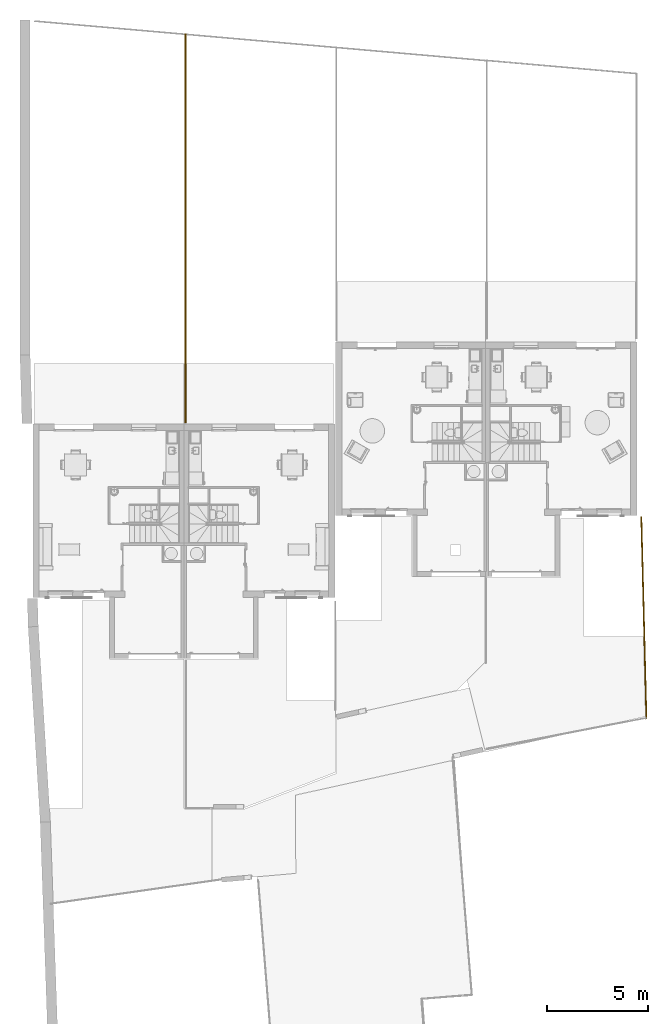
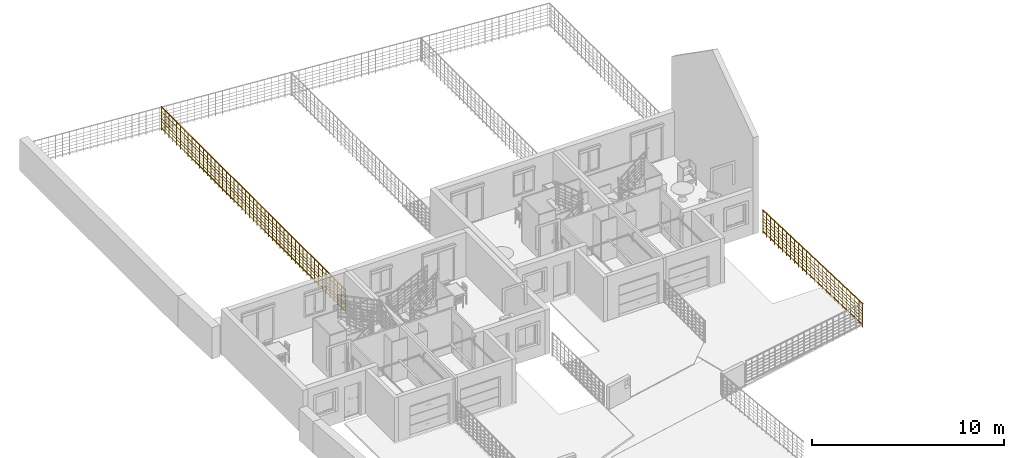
# One storey, part 26 of 30: 2 railings.
"""IFC2X3 building model written with IfcOpenShell, lengths in metres."""

from ifc_helpers import new_model, entity, si_unit, converted_unit, derived_unit, direction, frame, frame_2d, origin, origin_2d_with_axis, place, context, subcontext, project, spatial, polyline, rectangle, circle, outline, extrude, material, material_list, element, save


model = new_model("IFC2X3")

# Units and contexts
model_context = context("Model", 3, precision=1e-05, world=origin(), true_north=direction((6.12303176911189e-17, 1.0)))
body_context = subcontext(model_context, "Body", "Model", "MODEL_VIEW")
ifc_project = project(units=[si_unit("LENGTHUNIT", "METRE"), si_unit("AREAUNIT", "SQUARE_METRE"), si_unit("VOLUMEUNIT", "CUBIC_METRE"), converted_unit("PLANEANGLEUNIT", "DEGREE", entity("IfcRatioMeasure", 0.0174532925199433), si_unit("PLANEANGLEUNIT", "RADIAN"), dimensions=[0, 0, 0, 0, 0, 0, 0]), si_unit("MASSUNIT", "GRAM", prefix="KILO"), derived_unit("MASSDENSITYUNIT", [(si_unit("MASSUNIT", "GRAM", prefix="KILO"), 1), (si_unit("LENGTHUNIT", "METRE"), -3)]), si_unit("TIMEUNIT", "SECOND"), si_unit("FREQUENCYUNIT", "HERTZ"), si_unit("THERMODYNAMICTEMPERATUREUNIT", "DEGREE_CELSIUS"), derived_unit("THERMALTRANSMITTANCEUNIT", [(si_unit("MASSUNIT", "GRAM", prefix="KILO"), 1), (si_unit("THERMODYNAMICTEMPERATUREUNIT", "KELVIN"), -1), (si_unit("TIMEUNIT", "SECOND"), -3)]), derived_unit("VOLUMETRICFLOWRATEUNIT", [(si_unit("LENGTHUNIT", "METRE"), 3), (si_unit("TIMEUNIT", "SECOND"), -1)]), si_unit("ELECTRICCURRENTUNIT", "AMPERE"), si_unit("ELECTRICVOLTAGEUNIT", "VOLT"), si_unit("POWERUNIT", "WATT"), si_unit("FORCEUNIT", "NEWTON", prefix="KILO"), si_unit("ILLUMINANCEUNIT", "LUX"), si_unit("LUMINOUSFLUXUNIT", "LUMEN"), si_unit("LUMINOUSINTENSITYUNIT", "CANDELA"), derived_unit("USERDEFINED", [(si_unit("MASSUNIT", "GRAM", prefix="KILO"), -1), (si_unit("LENGTHUNIT", "METRE"), -2), (si_unit("TIMEUNIT", "SECOND"), 3), (si_unit("LUMINOUSFLUXUNIT", "LUMEN"), 1)]), derived_unit("LINEARVELOCITYUNIT", [(si_unit("LENGTHUNIT", "METRE"), 1), (si_unit("TIMEUNIT", "SECOND"), -1)]), si_unit("PRESSUREUNIT", "PASCAL"), derived_unit("USERDEFINED", [(si_unit("LENGTHUNIT", "METRE"), -2), (si_unit("MASSUNIT", "GRAM", prefix="KILO"), 1), (si_unit("TIMEUNIT", "SECOND"), -2)])], contexts=[model_context])

# Site, building, storey
site_placement = place(None, origin())
site = spatial("IfcSite", under=ifc_project, at=site_placement, Name="Surface", CompositionType="ELEMENT")
building_placement = place(site_placement, origin())
building = spatial("IfcBuilding", under=site, at=building_placement, CompositionType="ELEMENT")
storey_placement = place(building_placement, origin())
storey = spatial("IfcBuildingStorey", under=building, at=storey_placement, Name="Plan des fondations  Maisons 1 et 2", CompositionType="ELEMENT", Elevation=0.0)

# Railings
ifc_material_1 = material(Name="Bois")
ifc_material_2 = material(Name="Finition Peinture Grise")
ifc_material_list_1 = material_list([ifc_material_1, ifc_material_2])
railing_1_placement = place(building_placement, origin())
element("IfcRailing", 1, at=railing_1_placement, inside=storey, material=ifc_material_list_1, Name="Garde-corps:Type Bateau 1,50 m", ObjectType="Garde-corps:Type Bateau 1,50 m", PredefinedType="NOTDEFINED", context=body_context, shape_type="SweptSolid", body=[
    extrude(rectangle(XDim=0.0499999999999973, YDim=0.0139999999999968, at=frame_2d((4.32986979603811e-15, -1.73259843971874e-14), x_axis=(1.0, 0.0))), frame((68.9122847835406, 107.277798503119, -0.1), z_axis=(0.0, 0.0, 1.0), x_axis=(-1.0, 0.0, 0.0)), (0.0, 0.0, 1.0), 1.46984653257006),
    extrude(rectangle(XDim=0.0499999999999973, YDim=0.0139999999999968, at=frame_2d((4.32986979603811e-15, 0.0), x_axis=(1.0, 0.0))), frame((68.9122847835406, 106.877798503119, -0.1), z_axis=(0.0, 0.0, 1.0), x_axis=(-1.0, 0.0, 0.0)), (0.0, 0.0, 1.0), 1.46984653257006),
    extrude(rectangle(XDim=0.0499999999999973, YDim=0.0139999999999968, at=frame_2d((4.32986979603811e-15, 0.0), x_axis=(1.0, 0.0))), frame((68.9122847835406, 106.477798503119, -0.1), z_axis=(0.0, 0.0, 1.0), x_axis=(-1.0, 0.0, 0.0)), (0.0, 0.0, 1.0), 1.46984653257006),
    extrude(rectangle(XDim=0.0499999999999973, YDim=0.0139999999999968, at=frame_2d((4.32986979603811e-15, -1.73259843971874e-14), x_axis=(1.0, 0.0))), frame((68.9122847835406, 106.077798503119, -0.1), z_axis=(0.0, 0.0, 1.0), x_axis=(-1.0, 0.0, 0.0)), (0.0, 0.0, 1.0), 1.46984653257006),
    extrude(rectangle(XDim=0.0499999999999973, YDim=0.0139999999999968, at=frame_2d((4.32986979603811e-15, 0.0), x_axis=(1.0, 0.0))), frame((68.9122847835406, 105.677798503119, -0.1), z_axis=(0.0, 0.0, 1.0), x_axis=(-1.0, 0.0, 0.0)), (0.0, 0.0, 1.0), 1.46984653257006),
    extrude(rectangle(XDim=0.0499999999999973, YDim=0.0139999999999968, at=frame_2d((4.32986979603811e-15, 0.0), x_axis=(1.0, 0.0))), frame((68.9122847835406, 105.277798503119, -0.1), z_axis=(0.0, 0.0, 1.0), x_axis=(-1.0, 0.0, 0.0)), (0.0, 0.0, 1.0), 1.46984653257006),
    extrude(rectangle(XDim=0.0499999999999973, YDim=0.0139999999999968, at=frame_2d((-4.32986979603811e-15, -1.73259843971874e-14), x_axis=(1.0, 0.0))), frame((68.9122847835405, 104.877798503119, -0.1), z_axis=(0.0, 0.0, 1.0), x_axis=(-1.0, 0.0, 0.0)), (0.0, 0.0, 1.0), 1.46984653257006),
    extrude(rectangle(XDim=0.0499999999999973, YDim=0.0139999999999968, at=frame_2d((-4.32986979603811e-15, 0.0), x_axis=(1.0, 0.0))), frame((68.9122847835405, 104.477798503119, -0.1), z_axis=(0.0, 0.0, 1.0), x_axis=(-1.0, 0.0, 0.0)), (0.0, 0.0, 1.0), 1.46984653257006),
    extrude(rectangle(XDim=0.0499999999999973, YDim=0.0139999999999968, at=frame_2d((-4.32986979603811e-15, 0.0), x_axis=(1.0, 0.0))), frame((68.9122847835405, 104.077798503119, -0.1), z_axis=(0.0, 0.0, 1.0), x_axis=(-1.0, 0.0, 0.0)), (0.0, 0.0, 1.0), 1.46984653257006),
    extrude(rectangle(XDim=0.0499999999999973, YDim=0.0139999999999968, at=frame_2d((-4.32986979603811e-15, 0.0), x_axis=(1.0, 0.0))), frame((68.9122847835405, 103.677798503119, -0.1), z_axis=(0.0, 0.0, 1.0), x_axis=(-1.0, 0.0, 0.0)), (0.0, 0.0, 1.0), 1.46984653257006),
    extrude(rectangle(XDim=0.0499999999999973, YDim=0.0139999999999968, at=frame_2d((-4.32986979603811e-15, 0.0), x_axis=(1.0, 0.0))), frame((68.9122847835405, 103.277798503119, -0.1), z_axis=(0.0, 0.0, 1.0), x_axis=(-1.0, 0.0, 0.0)), (0.0, 0.0, 1.0), 1.46984653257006),
    extrude(rectangle(XDim=0.0499999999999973, YDim=0.0139999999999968, at=frame_2d((-4.32986979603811e-15, 0.0), x_axis=(1.0, 0.0))), frame((68.9122847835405, 102.877798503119, -0.1), z_axis=(0.0, 0.0, 1.0), x_axis=(-1.0, 0.0, 0.0)), (0.0, 0.0, 1.0), 1.46984653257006),
    extrude(rectangle(XDim=0.0499999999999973, YDim=0.0139999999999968, at=frame_2d((-4.32986979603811e-15, 0.0), x_axis=(1.0, 0.0))), frame((68.9122847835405, 102.477798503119, -0.1), z_axis=(0.0, 0.0, 1.0), x_axis=(-1.0, 0.0, 0.0)), (0.0, 0.0, 1.0), 1.46984653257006),
    extrude(rectangle(XDim=0.0499999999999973, YDim=0.0139999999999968, at=frame_2d((-4.32986979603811e-15, 0.0), x_axis=(1.0, 0.0))), frame((68.9122847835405, 102.077798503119, -0.1), z_axis=(0.0, 0.0, 1.0), x_axis=(-1.0, 0.0, 0.0)), (0.0, 0.0, 1.0), 1.46984653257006),
    extrude(rectangle(XDim=0.0499999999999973, YDim=0.0139999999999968, at=frame_2d((-4.32986979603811e-15, 0.0), x_axis=(1.0, 0.0))), frame((68.9122847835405, 101.677798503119, -0.1), z_axis=(0.0, 0.0, 1.0), x_axis=(-1.0, 0.0, 0.0)), (0.0, 0.0, 1.0), 1.46984653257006),
    extrude(rectangle(XDim=0.0499999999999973, YDim=0.0139999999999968, at=frame_2d((-4.32986979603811e-15, 0.0), x_axis=(1.0, 0.0))), frame((68.9122847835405, 101.277798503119, -0.1), z_axis=(0.0, 0.0, 1.0), x_axis=(-1.0, 0.0, 0.0)), (0.0, 0.0, 1.0), 1.46984653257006),
    extrude(rectangle(XDim=0.0499999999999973, YDim=0.0139999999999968, at=frame_2d((-4.32986979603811e-15, 0.0), x_axis=(1.0, 0.0))), frame((68.9122847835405, 100.877798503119, -0.1), z_axis=(0.0, 0.0, 1.0), x_axis=(-1.0, 0.0, 0.0)), (0.0, 0.0, 1.0), 1.46984653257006),
    extrude(rectangle(XDim=0.0499999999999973, YDim=0.0139999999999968, at=frame_2d((-4.32986979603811e-15, 0.0), x_axis=(1.0, 0.0))), frame((68.9122847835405, 100.477798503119, -0.1), z_axis=(0.0, 0.0, 1.0), x_axis=(-1.0, 0.0, 0.0)), (0.0, 0.0, 1.0), 1.46984653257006),
    extrude(rectangle(XDim=0.0499999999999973, YDim=0.0139999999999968, at=frame_2d((-4.32986979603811e-15, 0.0), x_axis=(1.0, 0.0))), frame((68.9122847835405, 100.077798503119, -0.1), z_axis=(0.0, 0.0, 1.0), x_axis=(-1.0, 0.0, 0.0)), (0.0, 0.0, 1.0), 1.46984653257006),
    extrude(rectangle(XDim=0.0499999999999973, YDim=0.0139999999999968, at=frame_2d((4.32986979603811e-15, 0.0), x_axis=(1.0, 0.0))), frame((68.9122847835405, 99.6777985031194, -0.1), z_axis=(0.0, 0.0, 1.0), x_axis=(-1.0, 0.0, 0.0)), (0.0, 0.0, 1.0), 1.46984653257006),
    extrude(rectangle(XDim=0.0499999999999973, YDim=0.0139999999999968, at=frame_2d((4.32986979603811e-15, 0.0), x_axis=(1.0, 0.0))), frame((68.9122847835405, 99.2777985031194, -0.1), z_axis=(0.0, 0.0, 1.0), x_axis=(-1.0, 0.0, 0.0)), (0.0, 0.0, 1.0), 1.46984653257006),
    extrude(rectangle(XDim=0.0499999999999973, YDim=0.0139999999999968, at=frame_2d((4.32986979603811e-15, 0.0), x_axis=(1.0, 0.0))), frame((68.9122847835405, 98.8777985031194, -0.1), z_axis=(0.0, 0.0, 1.0), x_axis=(-1.0, 0.0, 0.0)), (0.0, 0.0, 1.0), 1.46984653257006),
    extrude(rectangle(XDim=0.0499999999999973, YDim=0.0139999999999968, at=frame_2d((4.32986979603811e-15, 0.0), x_axis=(1.0, 0.0))), frame((68.9122847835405, 98.4777985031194, -0.1), z_axis=(0.0, 0.0, 1.0), x_axis=(-1.0, 0.0, 0.0)), (0.0, 0.0, 1.0), 1.46984653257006),
    extrude(rectangle(XDim=0.0499999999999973, YDim=0.0139999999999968, at=frame_2d((4.32986979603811e-15, 0.0), x_axis=(1.0, 0.0))), frame((68.9122847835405, 98.0777985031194, -0.1), z_axis=(0.0, 0.0, 1.0), x_axis=(-1.0, 0.0, 0.0)), (0.0, 0.0, 1.0), 1.46984653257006),
    extrude(rectangle(XDim=0.0499999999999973, YDim=0.0139999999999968, at=frame_2d((4.32986979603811e-15, 0.0), x_axis=(1.0, 0.0))), frame((68.9122847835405, 97.6777985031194, -0.1), z_axis=(0.0, 0.0, 1.0), x_axis=(-1.0, 0.0, 0.0)), (0.0, 0.0, 1.0), 1.46984653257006),
    extrude(rectangle(XDim=0.0499999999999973, YDim=0.0139999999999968, at=frame_2d((4.32986979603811e-15, 0.0), x_axis=(1.0, 0.0))), frame((68.9122847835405, 97.2777985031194, -0.1), z_axis=(0.0, 0.0, 1.0), x_axis=(-1.0, 0.0, 0.0)), (0.0, 0.0, 1.0), 1.46984653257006),
    extrude(rectangle(XDim=0.0499999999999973, YDim=0.0139999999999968, at=frame_2d((4.32986979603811e-15, 0.0), x_axis=(1.0, 0.0))), frame((68.9122847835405, 96.8777985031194, -0.1), z_axis=(0.0, 0.0, 1.0), x_axis=(-1.0, 0.0, 0.0)), (0.0, 0.0, 1.0), 1.46984653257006),
    extrude(rectangle(XDim=0.0499999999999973, YDim=0.0139999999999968, at=frame_2d((4.32986979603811e-15, 0.0), x_axis=(1.0, 0.0))), frame((68.9122847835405, 96.4777985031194, -0.1), z_axis=(0.0, 0.0, 1.0), x_axis=(-1.0, 0.0, 0.0)), (0.0, 0.0, 1.0), 1.46984653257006),
    extrude(rectangle(XDim=0.0499999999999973, YDim=0.0139999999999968, at=frame_2d((4.32986979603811e-15, 0.0), x_axis=(1.0, 0.0))), frame((68.9122847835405, 96.0777985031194, -0.1), z_axis=(0.0, 0.0, 1.0), x_axis=(-1.0, 0.0, 0.0)), (0.0, 0.0, 1.0), 1.46984653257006),
    extrude(rectangle(XDim=0.0499999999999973, YDim=0.0139999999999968, at=frame_2d((4.32986979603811e-15, 0.0), x_axis=(1.0, 0.0))), frame((68.9122847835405, 95.6777985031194, -0.1), z_axis=(0.0, 0.0, 1.0), x_axis=(-1.0, 0.0, 0.0)), (0.0, 0.0, 1.0), 1.46984653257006),
    extrude(rectangle(XDim=0.0499999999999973, YDim=0.0139999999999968, at=frame_2d((4.32986979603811e-15, 0.0), x_axis=(1.0, 0.0))), frame((68.9122847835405, 95.2777985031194, -0.1), z_axis=(0.0, 0.0, 1.0), x_axis=(-1.0, 0.0, 0.0)), (0.0, 0.0, 1.0), 1.46984653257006),
    extrude(rectangle(XDim=0.0499999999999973, YDim=0.0139999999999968, at=frame_2d((4.32986979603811e-15, 0.0), x_axis=(1.0, 0.0))), frame((68.9122847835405, 94.8777985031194, -0.1), z_axis=(0.0, 0.0, 1.0), x_axis=(-1.0, 0.0, 0.0)), (0.0, 0.0, 1.0), 1.46984653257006),
    extrude(rectangle(XDim=0.0499999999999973, YDim=0.0139999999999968, at=frame_2d((4.32986979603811e-15, 0.0), x_axis=(1.0, 0.0))), frame((68.9122847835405, 94.4777985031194, -0.1), z_axis=(0.0, 0.0, 1.0), x_axis=(-1.0, 0.0, 0.0)), (0.0, 0.0, 1.0), 1.46984653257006),
    extrude(rectangle(XDim=0.0499999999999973, YDim=0.0139999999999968, at=frame_2d((4.32986979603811e-15, 0.0), x_axis=(1.0, 0.0))), frame((68.9122847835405, 94.0777985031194, -0.1), z_axis=(0.0, 0.0, 1.0), x_axis=(-1.0, 0.0, 0.0)), (0.0, 0.0, 1.0), 1.46984653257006),
    extrude(rectangle(XDim=0.0499999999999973, YDim=0.0139999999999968, at=frame_2d((4.32986979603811e-15, 0.0), x_axis=(1.0, 0.0))), frame((68.9122847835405, 93.6777985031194, -0.1), z_axis=(0.0, 0.0, 1.0), x_axis=(-1.0, 0.0, 0.0)), (0.0, 0.0, 1.0), 1.46984653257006),
    extrude(rectangle(XDim=0.0499999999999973, YDim=0.0139999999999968, at=frame_2d((4.32986979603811e-15, 0.0), x_axis=(1.0, 0.0))), frame((68.9122847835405, 93.2777985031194, -0.1), z_axis=(0.0, 0.0, 1.0), x_axis=(-1.0, 0.0, 0.0)), (0.0, 0.0, 1.0), 1.46984653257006),
    extrude(rectangle(XDim=0.0499999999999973, YDim=0.0139999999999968, at=frame_2d((4.32986979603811e-15, 0.0), x_axis=(1.0, 0.0))), frame((68.9122847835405, 92.8777985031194, -0.1), z_axis=(0.0, 0.0, 1.0), x_axis=(-1.0, 0.0, 0.0)), (0.0, 0.0, 1.0), 1.46984653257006),
    extrude(rectangle(XDim=0.0499999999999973, YDim=0.0139999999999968, at=frame_2d((4.32986979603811e-15, 0.0), x_axis=(1.0, 0.0))), frame((68.9122847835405, 92.4777985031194, -0.1), z_axis=(0.0, 0.0, 1.0), x_axis=(-1.0, 0.0, 0.0)), (0.0, 0.0, 1.0), 1.46984653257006),
    extrude(rectangle(XDim=0.0499999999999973, YDim=0.0139999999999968, at=frame_2d((4.32986979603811e-15, 0.0), x_axis=(1.0, 0.0))), frame((68.9122847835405, 92.0777985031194, -0.1), z_axis=(0.0, 0.0, 1.0), x_axis=(-1.0, 0.0, 0.0)), (0.0, 0.0, 1.0), 1.46984653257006),
    extrude(rectangle(XDim=0.0499999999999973, YDim=0.0139999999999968, at=frame_2d((4.32986979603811e-15, 0.0), x_axis=(1.0, 0.0))), frame((68.9122847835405, 91.6777985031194, -0.1), z_axis=(0.0, 0.0, 1.0), x_axis=(-1.0, 0.0, 0.0)), (0.0, 0.0, 1.0), 1.46984653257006),
    extrude(rectangle(XDim=0.0499999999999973, YDim=0.0139999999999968, at=frame_2d((4.32986979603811e-15, 0.0), x_axis=(1.0, 0.0))), frame((68.9122847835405, 91.2777985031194, -0.1), z_axis=(0.0, 0.0, 1.0), x_axis=(-1.0, 0.0, 0.0)), (0.0, 0.0, 1.0), 1.46984653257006),
    extrude(rectangle(XDim=0.0499999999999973, YDim=0.0139999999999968, at=frame_2d((4.32986979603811e-15, 0.0), x_axis=(1.0, 0.0))), frame((68.9122847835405, 90.8777985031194, -0.1), z_axis=(0.0, 0.0, 1.0), x_axis=(-1.0, 0.0, 0.0)), (0.0, 0.0, 1.0), 1.46984653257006),
    extrude(rectangle(XDim=0.0499999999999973, YDim=0.0139999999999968, at=frame_2d((4.32986979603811e-15, 0.0), x_axis=(1.0, 0.0))), frame((68.9122847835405, 90.4777985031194, -0.1), z_axis=(0.0, 0.0, 1.0), x_axis=(-1.0, 0.0, 0.0)), (0.0, 0.0, 1.0), 1.46984653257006),
    extrude(rectangle(XDim=0.0499999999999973, YDim=0.0139999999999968, at=frame_2d((4.32986979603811e-15, 0.0), x_axis=(1.0, 0.0))), frame((68.9122847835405, 90.0777985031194, -0.1), z_axis=(0.0, 0.0, 1.0), x_axis=(-1.0, 0.0, 0.0)), (0.0, 0.0, 1.0), 1.46984653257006),
    extrude(rectangle(XDim=0.0499999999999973, YDim=0.0139999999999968, at=frame_2d((4.32986979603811e-15, 0.0), x_axis=(1.0, 0.0))), frame((68.9122847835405, 89.6777985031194, -0.1), z_axis=(0.0, 0.0, 1.0), x_axis=(-1.0, 0.0, 0.0)), (0.0, 0.0, 1.0), 1.46984653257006),
    extrude(rectangle(XDim=0.0499999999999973, YDim=0.0139999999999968, at=frame_2d((4.32986979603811e-15, 0.0), x_axis=(1.0, 0.0))), frame((68.9122847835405, 89.2777985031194, -0.1), z_axis=(0.0, 0.0, 1.0), x_axis=(-1.0, 0.0, 0.0)), (0.0, 0.0, 1.0), 1.46984653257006),
    extrude(rectangle(XDim=0.0499999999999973, YDim=0.0139999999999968, at=frame_2d((4.32986979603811e-15, 0.0), x_axis=(1.0, 0.0))), frame((68.9122847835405, 88.8777985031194, -0.1), z_axis=(0.0, 0.0, 1.0), x_axis=(-1.0, 0.0, 0.0)), (0.0, 0.0, 1.0), 1.46984653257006),
    extrude(rectangle(XDim=0.0499999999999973, YDim=0.0139999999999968, at=frame_2d((4.32986979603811e-15, 0.0), x_axis=(1.0, 0.0))), frame((68.9122847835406, 107.667798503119, -0.1), z_axis=(0.0, 0.0, 1.0), x_axis=(-1.0, 0.0, 0.0)), (0.0, 0.0, 1.0), 1.46984653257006),
    extrude(rectangle(XDim=0.0499999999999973, YDim=0.0139999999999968, at=frame_2d((4.32986979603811e-15, 0.0), x_axis=(1.0, 0.0))), frame((68.9122847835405, 88.4877985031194, -0.1), z_axis=(0.0, 0.0, 1.0), x_axis=(-1.0, 0.0, 0.0)), (0.0, 0.0, 1.0), 1.46984653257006),
    extrude(outline(polyline([(-0.0109067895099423, -0.0384843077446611), (0.00177588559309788, -0.0384843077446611), (0.0141514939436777, -0.0318300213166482), (0.0240801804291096, -0.0196720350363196), (0.029845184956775, -0.00411257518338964), (0.0304496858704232, 0.01215798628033), (0.0257891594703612, 0.0263263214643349), (0.016669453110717, 0.0359425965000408), (0.010906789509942, 0.0384843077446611), (-0.0017758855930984, 0.0384843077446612), (-0.0141514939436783, 0.0318300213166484), (-0.0240801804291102, 0.0196720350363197), (-0.0298451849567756, 0.00411257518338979), (-0.0304496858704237, -0.0121579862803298), (-0.0257891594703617, -0.0263263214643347), (-0.0166694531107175, -0.0359425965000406), (-0.0109067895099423, -0.0384843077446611)])), frame((68.9117857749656, 88.4766194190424, 1.4), z_axis=(0.0, 1.0, 0.0), x_axis=(0.27266973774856, 0.0, 0.962107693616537)), (0.0, 0.0, 1.0), 19.2),
    extrude(circle(Radius=0.015, at=origin_2d_with_axis()), frame((68.9117857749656, 88.4766194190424, 0.025), z_axis=(0.0, 1.0, 0.0), x_axis=(1.0, 0.0, 0.0)), (0.0, 0.0, 1.0), 19.2),
    extrude(circle(Radius=0.015, at=origin_2d_with_axis()), frame((68.9117857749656, 88.4766194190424, 1.085), z_axis=(0.0, 1.0, 0.0), x_axis=(1.0, 0.0, 0.0)), (0.0, 0.0, 1.0), 19.2),
    extrude(circle(Radius=0.015, at=origin_2d_with_axis()), frame((68.9117857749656, 88.4766194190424, 0.885), z_axis=(0.0, 1.0, 0.0), x_axis=(1.0, 0.0, 0.0)), (0.0, 0.0, 1.0), 19.2),
    extrude(circle(Radius=0.015, at=origin_2d_with_axis()), frame((68.9117857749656, 88.4766194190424, 0.685), z_axis=(0.0, 1.0, 0.0), x_axis=(1.0, 0.0, 0.0)), (0.0, 0.0, 1.0), 19.2),
    extrude(circle(Radius=0.015, at=origin_2d_with_axis()), frame((68.9117857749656, 88.4766194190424, 0.485), z_axis=(0.0, 1.0, 0.0), x_axis=(1.0, 0.0, 0.0)), (0.0, 0.0, 1.0), 19.2),
    extrude(circle(Radius=0.015, at=origin_2d_with_axis()), frame((68.9117857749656, 88.4766194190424, 0.285), z_axis=(0.0, 1.0, 0.0), x_axis=(1.0, 0.0, 0.0)), (0.0, 0.0, 1.0), 19.2),
    extrude(circle(Radius=0.015, at=origin_2d_with_axis()), frame((68.9117857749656, 88.4766194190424, 0.085), z_axis=(0.0, 1.0, 0.0), x_axis=(1.0, 0.0, 0.0)), (0.0, 0.0, 1.0), 19.2),
])
ifc_material_list_2 = material_list([ifc_material_1, ifc_material_2])
railing_2_placement = place(building_placement, origin())
element("IfcRailing", 2, at=railing_2_placement, inside=storey, material=ifc_material_list_2, Name="Garde-corps:Type Bateau 1,50 m", ObjectType="Garde-corps:Type Bateau 1,50 m", PredefinedType="NOTDEFINED", context=body_context, shape_type="SweptSolid", body=[
    extrude(rectangle(XDim=0.0500000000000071, YDim=0.0139999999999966, at=origin_2d_with_axis()), frame((91.6194130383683, 74.2817731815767, -0.1), z_axis=(0.0, 0.0, 1.0), x_axis=(0.99967963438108, 0.0253106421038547, 0.0)), (0.0, 0.0, 1.0), 1.46984653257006),
    extrude(rectangle(XDim=0.0500000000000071, YDim=0.0139999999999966, at=origin_2d_with_axis()), frame((91.6092887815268, 74.6816450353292, -0.1), z_axis=(0.0, 0.0, 1.0), x_axis=(0.99967963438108, 0.0253106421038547, 0.0)), (0.0, 0.0, 1.0), 1.46984653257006),
    extrude(rectangle(XDim=0.0500000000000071, YDim=0.0139999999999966, at=frame_2d((2.18575157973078e-16, 8.66017327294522e-15), x_axis=(1.0, 0.0))), frame((91.5991645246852, 75.0815168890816, -0.1), z_axis=(0.0, 0.0, 1.0), x_axis=(0.99967963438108, 0.0253106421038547, 0.0)), (0.0, 0.0, 1.0), 1.46984653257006),
    extrude(rectangle(XDim=0.0500000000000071, YDim=0.0139999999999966, at=origin_2d_with_axis()), frame((91.5890402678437, 75.481388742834, -0.1), z_axis=(0.0, 0.0, 1.0), x_axis=(0.99967963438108, 0.0253106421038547, 0.0)), (0.0, 0.0, 1.0), 1.46984653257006),
    extrude(rectangle(XDim=0.0500000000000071, YDim=0.0139999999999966, at=origin_2d_with_axis()), frame((91.5789160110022, 75.8812605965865, -0.1), z_axis=(0.0, 0.0, 1.0), x_axis=(0.99967963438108, 0.0253106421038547, 0.0)), (0.0, 0.0, 1.0), 1.46984653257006),
    extrude(rectangle(XDim=0.0500000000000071, YDim=0.0139999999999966, at=origin_2d_with_axis()), frame((91.5687917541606, 76.2811324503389, -0.1), z_axis=(0.0, 0.0, 1.0), x_axis=(0.99967963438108, 0.0253106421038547, 0.0)), (0.0, 0.0, 1.0), 1.46984653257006),
    extrude(rectangle(XDim=0.0500000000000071, YDim=0.0139999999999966, at=origin_2d_with_axis()), frame((91.5586674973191, 76.6810043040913, -0.1), z_axis=(0.0, 0.0, 1.0), x_axis=(0.99967963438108, 0.0253106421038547, 0.0)), (0.0, 0.0, 1.0), 1.46984653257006),
    extrude(rectangle(XDim=0.0500000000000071, YDim=0.0139999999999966, at=origin_2d_with_axis()), frame((91.5485432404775, 77.0808761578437, -0.1), z_axis=(0.0, 0.0, 1.0), x_axis=(0.99967963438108, 0.0253106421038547, 0.0)), (0.0, 0.0, 1.0), 1.46984653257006),
    extrude(rectangle(XDim=0.0500000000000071, YDim=0.0139999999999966, at=origin_2d_with_axis()), frame((91.538418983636, 77.4807480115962, -0.1), z_axis=(0.0, 0.0, 1.0), x_axis=(0.99967963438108, 0.0253106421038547, 0.0)), (0.0, 0.0, 1.0), 1.46984653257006),
    extrude(rectangle(XDim=0.0500000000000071, YDim=0.0139999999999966, at=origin_2d_with_axis()), frame((91.5282947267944, 77.8806198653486, -0.1), z_axis=(0.0, 0.0, 1.0), x_axis=(0.99967963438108, 0.0253106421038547, 0.0)), (0.0, 0.0, 1.0), 1.46984653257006),
    extrude(rectangle(XDim=0.0500000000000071, YDim=0.0139999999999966, at=frame_2d((-2.18575157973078e-16, -8.66017327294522e-15), x_axis=(1.0, 0.0))), frame((91.5181704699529, 78.2804917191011, -0.1), z_axis=(0.0, 0.0, 1.0), x_axis=(0.99967963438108, 0.0253106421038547, 0.0)), (0.0, 0.0, 1.0), 1.46984653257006),
    extrude(rectangle(XDim=0.0500000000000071, YDim=0.0139999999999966, at=frame_2d((2.18575157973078e-16, 8.66017327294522e-15), x_axis=(1.0, 0.0))), frame((91.5080462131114, 78.6803635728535, -0.1), z_axis=(0.0, 0.0, 1.0), x_axis=(0.99967963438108, 0.0253106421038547, 0.0)), (0.0, 0.0, 1.0), 1.46984653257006),
    extrude(rectangle(XDim=0.0500000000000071, YDim=0.0139999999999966, at=frame_2d((-2.18575157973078e-16, -8.66017327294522e-15), x_axis=(1.0, 0.0))), frame((91.4979219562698, 79.0802354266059, -0.1), z_axis=(0.0, 0.0, 1.0), x_axis=(0.99967963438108, 0.0253106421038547, 0.0)), (0.0, 0.0, 1.0), 1.46984653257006),
    extrude(rectangle(XDim=0.0500000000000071, YDim=0.0139999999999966, at=frame_2d((-2.18575157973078e-16, -8.66017327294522e-15), x_axis=(1.0, 0.0))), frame((91.4877976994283, 79.4801072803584, -0.1), z_axis=(0.0, 0.0, 1.0), x_axis=(0.99967963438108, 0.0253106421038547, 0.0)), (0.0, 0.0, 1.0), 1.46984653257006),
    extrude(rectangle(XDim=0.0500000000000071, YDim=0.0139999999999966, at=frame_2d((-2.18575157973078e-16, -8.66017327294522e-15), x_axis=(1.0, 0.0))), frame((91.4776734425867, 79.8799791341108, -0.1), z_axis=(0.0, 0.0, 1.0), x_axis=(0.99967963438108, 0.0253106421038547, 0.0)), (0.0, 0.0, 1.0), 1.46984653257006),
    extrude(rectangle(XDim=0.0500000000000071, YDim=0.0139999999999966, at=frame_2d((-2.18575157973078e-16, -8.66017327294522e-15), x_axis=(1.0, 0.0))), frame((91.4675491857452, 80.2798509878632, -0.1), z_axis=(0.0, 0.0, 1.0), x_axis=(0.99967963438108, 0.0253106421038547, 0.0)), (0.0, 0.0, 1.0), 1.46984653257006),
    extrude(rectangle(XDim=0.0500000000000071, YDim=0.0139999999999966, at=frame_2d((2.18575157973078e-16, 8.66017327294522e-15), x_axis=(1.0, 0.0))), frame((91.4574249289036, 80.6797228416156, -0.1), z_axis=(0.0, 0.0, 1.0), x_axis=(0.99967963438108, 0.0253106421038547, 0.0)), (0.0, 0.0, 1.0), 1.46984653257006),
    extrude(rectangle(XDim=0.0500000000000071, YDim=0.0139999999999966, at=frame_2d((-2.18575157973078e-16, -8.66017327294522e-15), x_axis=(1.0, 0.0))), frame((91.4473006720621, 81.0795946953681, -0.1), z_axis=(0.0, 0.0, 1.0), x_axis=(0.99967963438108, 0.0253106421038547, 0.0)), (0.0, 0.0, 1.0), 1.46984653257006),
    extrude(rectangle(XDim=0.0500000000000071, YDim=0.0139999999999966, at=frame_2d((-2.18575157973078e-16, -8.66017327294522e-15), x_axis=(1.0, 0.0))), frame((91.4371764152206, 81.4794665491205, -0.1), z_axis=(0.0, 0.0, 1.0), x_axis=(0.99967963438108, 0.0253106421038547, 0.0)), (0.0, 0.0, 1.0), 1.46984653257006),
    extrude(rectangle(XDim=0.0500000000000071, YDim=0.0139999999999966, at=frame_2d((-2.18575157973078e-16, -8.66017327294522e-15), x_axis=(1.0, 0.0))), frame((91.427052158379, 81.879338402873, -0.1), z_axis=(0.0, 0.0, 1.0), x_axis=(0.99967963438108, 0.0253106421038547, 0.0)), (0.0, 0.0, 1.0), 1.46984653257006),
    extrude(rectangle(XDim=0.0500000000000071, YDim=0.0139999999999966, at=frame_2d((-2.18575157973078e-16, -8.66017327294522e-15), x_axis=(1.0, 0.0))), frame((91.4169279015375, 82.2792102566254, -0.1), z_axis=(0.0, 0.0, 1.0), x_axis=(0.99967963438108, 0.0253106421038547, 0.0)), (0.0, 0.0, 1.0), 1.46984653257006),
    extrude(rectangle(XDim=0.0500000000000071, YDim=0.0139999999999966, at=frame_2d((-2.18575157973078e-16, -8.66017327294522e-15), x_axis=(1.0, 0.0))), frame((91.406803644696, 82.6790821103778, -0.1), z_axis=(0.0, 0.0, 1.0), x_axis=(0.99967963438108, 0.0253106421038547, 0.0)), (0.0, 0.0, 1.0), 1.46984653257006),
    extrude(rectangle(XDim=0.0500000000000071, YDim=0.0139999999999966, at=frame_2d((2.18575157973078e-16, 8.66017327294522e-15), x_axis=(1.0, 0.0))), frame((91.3966793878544, 83.0789539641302, -0.1), z_axis=(0.0, 0.0, 1.0), x_axis=(0.99967963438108, 0.0253106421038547, 0.0)), (0.0, 0.0, 1.0), 1.46984653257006),
    extrude(rectangle(XDim=0.0500000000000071, YDim=0.0139999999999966, at=frame_2d((-2.18575157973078e-16, -8.66017327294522e-15), x_axis=(1.0, 0.0))), frame((91.3865551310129, 83.4788258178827, -0.1), z_axis=(0.0, 0.0, 1.0), x_axis=(0.99967963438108, 0.0253106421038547, 0.0)), (0.0, 0.0, 1.0), 1.46984653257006),
    extrude(rectangle(XDim=0.0500000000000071, YDim=0.0139999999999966, at=origin_2d_with_axis()), frame((91.6292841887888, 73.8918981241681, -0.1), z_axis=(0.0, 0.0, 1.0), x_axis=(0.99967963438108, 0.0253106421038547, 0.0)), (0.0, 0.0, 1.0), 1.46984653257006),
    extrude(rectangle(XDim=0.0500000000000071, YDim=0.0139999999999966, at=frame_2d((-2.18575157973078e-16, -8.66017327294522e-15), x_axis=(1.0, 0.0))), frame((91.3766839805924, 83.8687008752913, -0.1), z_axis=(0.0, 0.0, 1.0), x_axis=(0.99967963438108, 0.0253106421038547, 0.0)), (0.0, 0.0, 1.0), 1.46984653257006),
    extrude(outline(polyline([(-0.0109067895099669, -0.0384843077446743), (0.00177588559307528, -0.0384843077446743), (0.0141514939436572, -0.0318300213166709), (0.0240801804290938, -0.0196720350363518), (0.0298451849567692, -0.0041125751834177), (0.0304496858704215, 0.0121579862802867), (0.0257891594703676, 0.0263263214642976), (0.0166694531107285, 0.0359425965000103), (0.010906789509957, 0.0384843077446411), (-0.00177588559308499, 0.038484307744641), (-0.0141514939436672, 0.0318300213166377), (-0.0240801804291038, 0.0196720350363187), (-0.0298451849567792, 0.00411257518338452), (-0.0304496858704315, -0.0121579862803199), (-0.0257891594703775, -0.0263263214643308), (-0.0166694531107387, -0.0359425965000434), (-0.0109067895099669, -0.0384843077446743)])), frame((91.6300063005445, 73.8830926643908, 1.4), z_axis=(-0.0253106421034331, 0.999679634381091, 0.0), x_axis=(-0.272582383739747, -0.00690144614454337, -0.962107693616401)), (0.0, 0.0, 1.0), 9.99999999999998),
    extrude(circle(Radius=0.015, at=origin_2d_with_axis()), frame((91.6300063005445, 73.8830926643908, 0.025), z_axis=(-0.0253106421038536, 0.99967963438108, 0.0), x_axis=(-0.99967963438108, -0.0253106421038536, 0.0)), (0.0, 0.0, 1.0), 9.99999999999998),
    extrude(circle(Radius=0.015, at=origin_2d_with_axis()), frame((91.6300063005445, 73.8830926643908, 1.085), z_axis=(-0.0253106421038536, 0.99967963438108, 0.0), x_axis=(-0.99967963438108, -0.0253106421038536, 0.0)), (0.0, 0.0, 1.0), 9.99999999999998),
    extrude(circle(Radius=0.015, at=origin_2d_with_axis()), frame((91.6300063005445, 73.8830926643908, 0.885), z_axis=(-0.0253106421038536, 0.99967963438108, 0.0), x_axis=(-0.99967963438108, -0.0253106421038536, 0.0)), (0.0, 0.0, 1.0), 9.99999999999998),
    extrude(circle(Radius=0.015, at=origin_2d_with_axis()), frame((91.6300063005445, 73.8830926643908, 0.685), z_axis=(-0.0253106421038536, 0.99967963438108, 0.0), x_axis=(-0.99967963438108, -0.0253106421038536, 0.0)), (0.0, 0.0, 1.0), 9.99999999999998),
    extrude(circle(Radius=0.015, at=origin_2d_with_axis()), frame((91.6300063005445, 73.8830926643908, 0.485), z_axis=(-0.0253106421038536, 0.99967963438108, 0.0), x_axis=(-0.99967963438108, -0.0253106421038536, 0.0)), (0.0, 0.0, 1.0), 9.99999999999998),
    extrude(circle(Radius=0.015, at=origin_2d_with_axis()), frame((91.6300063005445, 73.8830926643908, 0.285), z_axis=(-0.0253106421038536, 0.99967963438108, 0.0), x_axis=(-0.99967963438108, -0.0253106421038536, 0.0)), (0.0, 0.0, 1.0), 9.99999999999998),
    extrude(circle(Radius=0.015, at=origin_2d_with_axis()), frame((91.6300063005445, 73.8830926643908, 0.085), z_axis=(-0.0253106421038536, 0.99967963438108, 0.0), x_axis=(-0.99967963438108, -0.0253106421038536, 0.0)), (0.0, 0.0, 1.0), 9.99999999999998),
])

save(model, "model.ifc")
